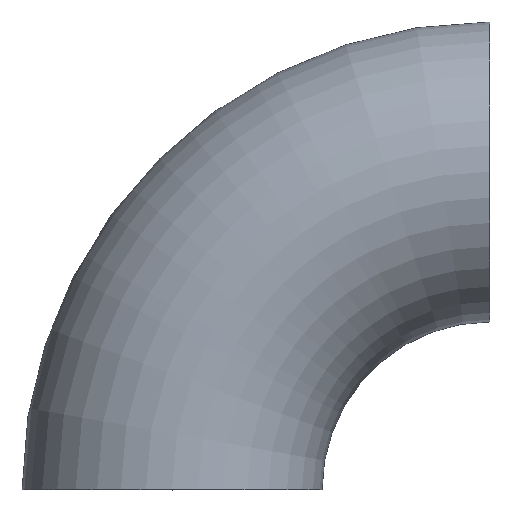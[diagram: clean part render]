
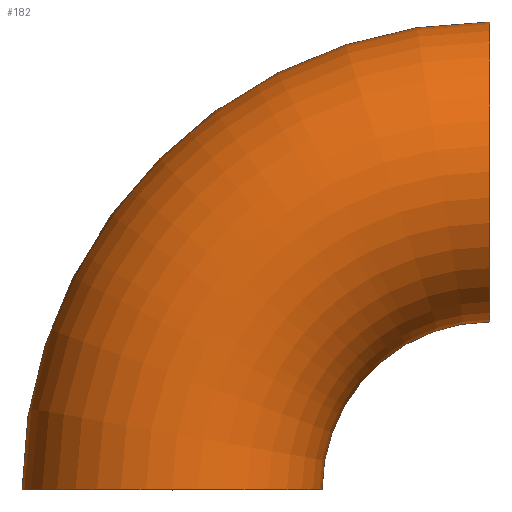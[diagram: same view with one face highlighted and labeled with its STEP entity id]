
A CAD part, top view. The second image highlights one B-rep face of the part: STEP entity #182.
In plain terms, the highlighted toroidal (fillet/blend) face has major radius 28.5 mm and minor radius 13.45 mm.
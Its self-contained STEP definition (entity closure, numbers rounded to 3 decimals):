
#7 = DIRECTION ( 'NONE',  ( 1., 0., 0. ) ) ;
#8 = CARTESIAN_POINT ( 'NONE',  ( 0., 0., 0. ) ) ;
#10 = DIRECTION ( 'NONE',  ( 0., 1., 0. ) ) ;
#18 = CIRCLE ( 'NONE', #43, 41.95 ) ;
#20 = VERTEX_POINT ( 'NONE', #163 ) ;
#21 = CARTESIAN_POINT ( 'NONE',  ( 28.5, 15.05, 0. ) ) ;
#22 = ORIENTED_EDGE ( 'NONE', *, *, #165, .F. ) ;
#25 = CARTESIAN_POINT ( 'NONE',  ( 28.5, 0., 0. ) ) ;
#31 = DIRECTION ( 'NONE',  ( 0., 0., 1. ) ) ;
#43 = AXIS2_PLACEMENT_3D ( 'NONE', #25, #126, #7 ) ;
#51 = DIRECTION ( 'NONE',  ( 1., 0., 0. ) ) ;
#52 = CARTESIAN_POINT ( 'NONE',  ( 13.45, 0., 0. ) ) ;
#63 = CIRCLE ( 'NONE', #174, 13.45 ) ;
#68 = CARTESIAN_POINT ( 'NONE',  ( 28.5, 0., 0. ) ) ;
#79 = VERTEX_POINT ( 'NONE', #21 ) ;
#84 = CARTESIAN_POINT ( 'NONE',  ( -13.45, 0., 0. ) ) ;
#87 = DIRECTION ( 'NONE',  ( 0., 0., 1. ) ) ;
#91 = DIRECTION ( 'NONE',  ( 0., 0., 1. ) ) ;
#98 = EDGE_CURVE ( 'NONE', #20, #102, #18, .T. ) ;
#102 = VERTEX_POINT ( 'NONE', #84 ) ;
#110 = DIRECTION ( 'NONE',  ( 0., 0., 1. ) ) ;
#113 = FACE_OUTER_BOUND ( 'NONE', #217, .T. ) ;
#121 = EDGE_CURVE ( 'NONE', #102, #241, #63, .T. ) ;
#126 = DIRECTION ( 'NONE',  ( 0., 0., 1. ) ) ;
#129 = CARTESIAN_POINT ( 'NONE',  ( 28.5, 28.5, 0. ) ) ;
#135 = AXIS2_PLACEMENT_3D ( 'NONE', #129, #206, #110 ) ;
#142 = ORIENTED_EDGE ( 'NONE', *, *, #121, .T. ) ;
#147 = EDGE_CURVE ( 'NONE', #20, #79, #176, .T. ) ;
#154 = ORIENTED_EDGE ( 'NONE', *, *, #98, .T. ) ;
#159 = AXIS2_PLACEMENT_3D ( 'NONE', #68, #87, #51 ) ;
#163 = CARTESIAN_POINT ( 'NONE',  ( 28.5, 41.95, 0. ) ) ;
#165 = EDGE_CURVE ( 'NONE', #79, #241, #179, .T. ) ;
#174 = AXIS2_PLACEMENT_3D ( 'NONE', #8, #10, #31 ) ;
#176 = CIRCLE ( 'NONE', #135, 13.45 ) ;
#179 = CIRCLE ( 'NONE', #159, 15.05 ) ;
#182 = ADVANCED_FACE ( 'NONE', ( #113 ), #224, .T. ) ;
#185 = DIRECTION ( 'NONE',  ( 1., 0., 0. ) ) ;
#195 = ORIENTED_EDGE ( 'NONE', *, *, #147, .F. ) ;
#206 = DIRECTION ( 'NONE',  ( 1., 0., 0. ) ) ;
#217 = EDGE_LOOP ( 'NONE', ( #195, #154, #142, #22 ) ) ;
#220 = AXIS2_PLACEMENT_3D ( 'NONE', #226, #91, #185 ) ;
#224 = TOROIDAL_SURFACE ( 'NONE', #220, 28.5, 13.45 ) ;
#226 = CARTESIAN_POINT ( 'NONE',  ( 28.5, 0., 0. ) ) ;
#241 = VERTEX_POINT ( 'NONE', #52 ) ;
